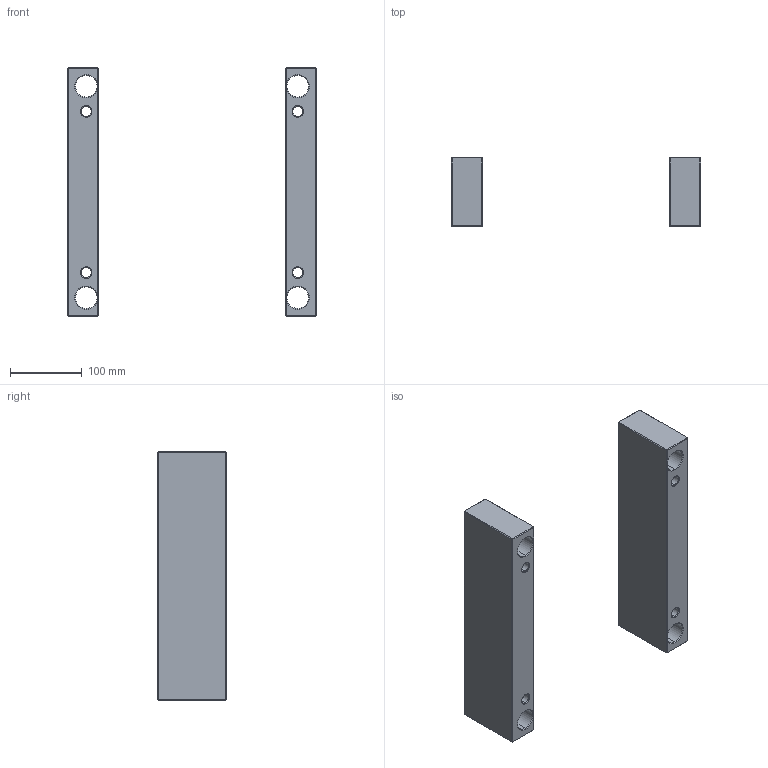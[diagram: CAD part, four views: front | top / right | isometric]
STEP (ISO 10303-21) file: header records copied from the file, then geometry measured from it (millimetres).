
FILE_DESCRIPTION (( 'STEP AP214' ), '1' );
FILE_NAME ('ESP-EU-346X346x96.STEP', '2020-04-16T10:01:46', ( 'August' ), ( '' ), 'SwSTEP 2.0', 'SolidWorks 2018', '' );
FILE_SCHEMA (( 'AUTOMOTIVE_DESIGN' ));
Length unit declared in the file: millimetre
Products named in the file (1): ESP-EU-346X346x96
Bounding box: 346 x 96 x 346 mm (x, y, z)
Volume: 2523531.2 mm3; surface area: 252176.1 mm2
Topology: 2 solids, 2 shells, 100 faces, 224 edges, 120 vertices
Faces by surface type: plane 52, cone 32, cylinder 16
Entity records: 2751 total; most frequent: DIRECTION 498, ORIENTED_EDGE 448, CARTESIAN_POINT 445, EDGE_CURVE 224, AXIS2_PLACEMENT_3D 173, LINE 152, VECTOR 152, VERTEX_POINT 120
